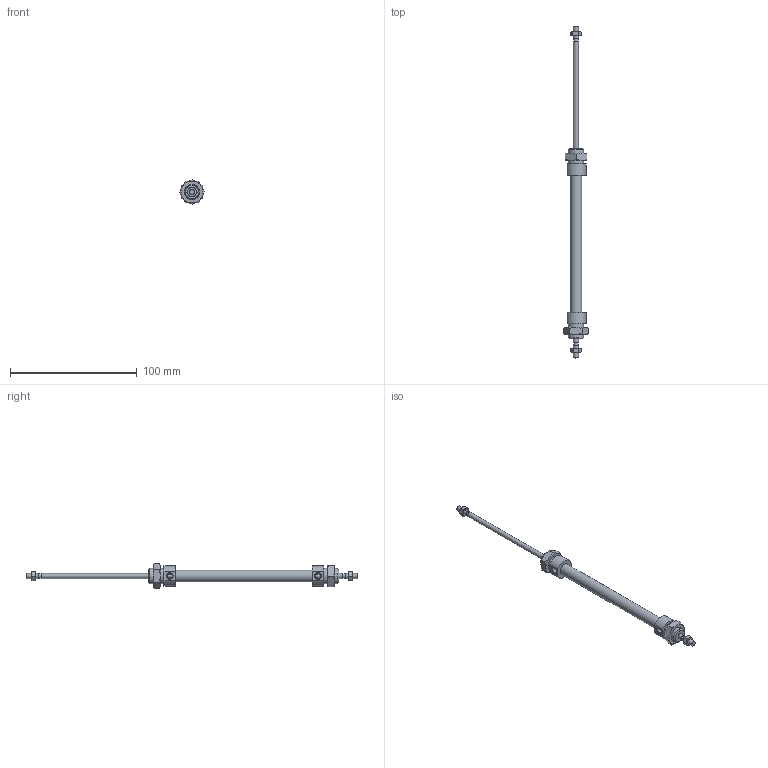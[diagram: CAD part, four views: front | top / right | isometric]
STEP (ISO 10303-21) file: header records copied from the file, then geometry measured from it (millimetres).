
FILE_DESCRIPTION((''),'2;1');
FILE_NAME('I:\Area Tecnica\Disegni\VARIE-3D\Componenti\1280\1282_##_####_#\1282_08_0080.iam.stp','2009-06-03T15:23:22',(''),(''),'Autodesk Inventor 2010','Autodesk Inventor 2010','');
FILE_SCHEMA(('AUTOMOTIVE_DESIGN { 1 0 10303 214 1 1 1 1 }'));
Length unit declared in the file: millimetre
Products named in the file (5): 1282_08_0080; C1282_08_80; S1282_08_80; 1200_08_05; 1200_08_06
Assembly tree (6 placements, depth 2):
  1282_08_0080
    C1282_08_80
    S1282_08_80
    1200_08_05  x2
    1200_08_06  x2
Bounding box: 19.63 x 262 x 19.63 mm (x, y, z)
Volume: 16530.9 mm3; surface area: 12695.8 mm2
Topology: 6 solids, 6 shells, 127 faces, 271 edges, 162 vertices
Faces by surface type: cone 52, plane 46, bspline 18, cylinder 11
Full cylindrical faces by diameter (mm): 3.5 x2, 4 x4, 9.2 x1, 12 x2
Entity records: 2371 total; most frequent: CARTESIAN_POINT 641, DIRECTION 310, ORIENTED_EDGE 280, AXIS2_PLACEMENT_3D 143, EDGE_CURVE 140, EDGE_LOOP 120, VERTEX_POINT 96, STYLED_ITEM 85
